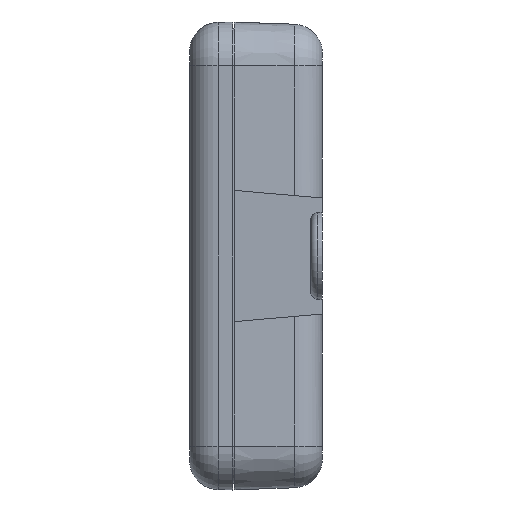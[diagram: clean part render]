
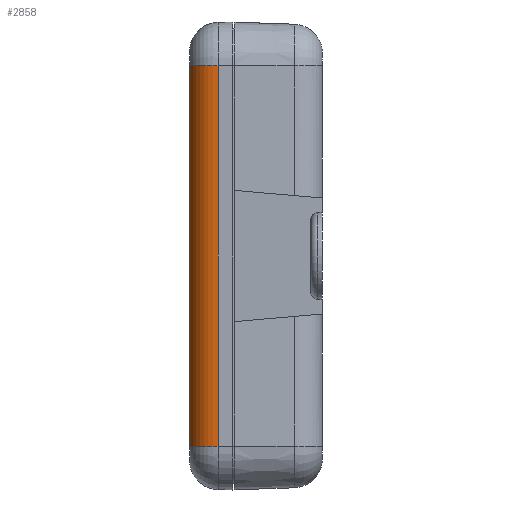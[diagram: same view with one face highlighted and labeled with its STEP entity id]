
A CAD part, left-side view. The second image highlights one B-rep face of the part: STEP entity #2858.
In plain terms, the highlighted cylindrical face has radius 6.35 mm (diameter 12.7 mm), a partial arc.
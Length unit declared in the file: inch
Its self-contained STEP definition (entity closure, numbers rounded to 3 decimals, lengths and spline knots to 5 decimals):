
#296 = CARTESIAN_POINT ( 'NONE',  ( -2.75482, 0.134, 1.63 ) ) ;
#304 = DIRECTION ( 'NONE',  ( 0., 0., 1. ) ) ;
#390 = DIRECTION ( 'NONE',  ( 0., 0., 1. ) ) ;
#559 = VECTOR ( 'NONE', #896, 39.37008 ) ;
#575 = FACE_OUTER_BOUND ( 'NONE', #10785, .T. ) ;
#771 = EDGE_CURVE ( 'NONE', #966, #1629, #6120, .T. ) ;
#887 = CARTESIAN_POINT ( 'NONE',  ( -3.00474, 0.14054, -1.63 ) ) ;
#896 = DIRECTION ( 'NONE',  ( 0., 0., -1. ) ) ;
#966 = VERTEX_POINT ( 'NONE', #5184 ) ;
#1313 = ORIENTED_EDGE ( 'NONE', *, *, #2427, .F. ) ;
#1564 = LINE ( 'NONE', #12813, #3381 ) ;
#1629 = VERTEX_POINT ( 'NONE', #887 ) ;
#1766 = ORIENTED_EDGE ( 'NONE', *, *, #12904, .T. ) ;
#2427 = EDGE_CURVE ( 'NONE', #7865, #12422, #1564, .T. ) ;
#2858 = ADVANCED_FACE ( 'NONE', ( #575 ), #8922, .T. ) ;
#3381 = VECTOR ( 'NONE', #10677, 39.37008 ) ;
#3973 = CARTESIAN_POINT ( 'NONE',  ( -2.75482, 0.384, -1.63 ) ) ;
#4654 = CIRCLE ( 'NONE', #7134, 0.25 ) ;
#5184 = CARTESIAN_POINT ( 'NONE',  ( -3.00474, 0.14054, 1.63 ) ) ;
#5464 = DIRECTION ( 'NONE',  ( 1., 0., 0. ) ) ;
#5559 = DIRECTION ( 'NONE',  ( -1., 0., 0. ) ) ;
#5935 = AXIS2_PLACEMENT_3D ( 'NONE', #11926, #390, #12805 ) ;
#6120 = LINE ( 'NONE', #8115, #559 ) ;
#7134 = AXIS2_PLACEMENT_3D ( 'NONE', #9636, #304, #5559 ) ;
#7418 = ORIENTED_EDGE ( 'NONE', *, *, #771, .F. ) ;
#7865 = VERTEX_POINT ( 'NONE', #3973 ) ;
#8115 = CARTESIAN_POINT ( 'NONE',  ( -3.00474, 0.14054, 1.63 ) ) ;
#8922 = CYLINDRICAL_SURFACE ( 'NONE', #9673, 0.25 ) ;
#9521 = CARTESIAN_POINT ( 'NONE',  ( -2.75482, 0.384, 1.63 ) ) ;
#9636 = CARTESIAN_POINT ( 'NONE',  ( -2.75482, 0.134, -1.63 ) ) ;
#9673 = AXIS2_PLACEMENT_3D ( 'NONE', #296, #12969, #5464 ) ;
#10170 = ORIENTED_EDGE ( 'NONE', *, *, #11432, .F. ) ;
#10677 = DIRECTION ( 'NONE',  ( 0., 0., 1. ) ) ;
#10785 = EDGE_LOOP ( 'NONE', ( #1766, #7418, #10170, #1313 ) ) ;
#11432 = EDGE_CURVE ( 'NONE', #12422, #966, #12249, .T. ) ;
#11926 = CARTESIAN_POINT ( 'NONE',  ( -2.75482, 0.134, 1.63 ) ) ;
#12249 = CIRCLE ( 'NONE', #5935, 0.25 ) ;
#12422 = VERTEX_POINT ( 'NONE', #9521 ) ;
#12805 = DIRECTION ( 'NONE',  ( -1., 0., 0. ) ) ;
#12813 = CARTESIAN_POINT ( 'NONE',  ( -2.75482, 0.384, 1.63 ) ) ;
#12904 = EDGE_CURVE ( 'NONE', #7865, #1629, #4654, .T. ) ;
#12969 = DIRECTION ( 'NONE',  ( 0., 0., -1. ) ) ;
